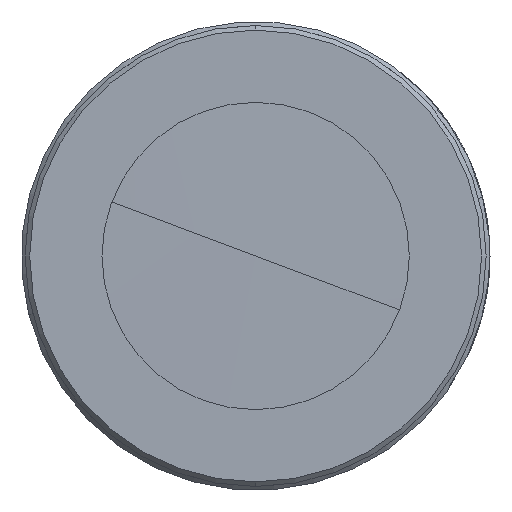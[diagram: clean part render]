
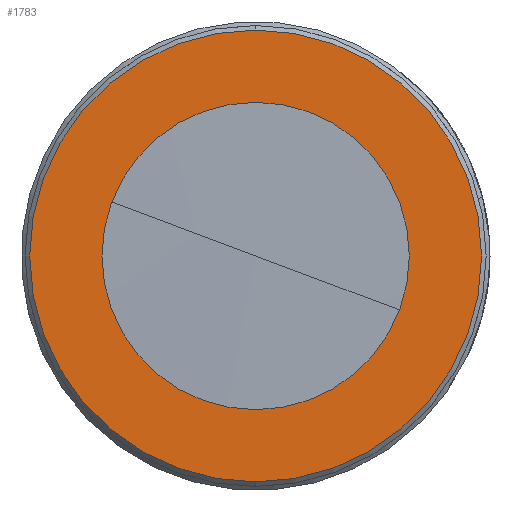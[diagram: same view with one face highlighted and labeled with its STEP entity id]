
A CAD part, front view. The second image highlights one B-rep face of the part: STEP entity #1783.
In plain terms, the highlighted planar face has unit normal (0, -1, 0).
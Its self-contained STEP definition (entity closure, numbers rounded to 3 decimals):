
#113 = PLANE ( 'NONE',  #5937 ) ;
#479 = CARTESIAN_POINT ( 'NONE',  ( 0., -125., 0. ) ) ;
#1171 = EDGE_LOOP ( 'NONE', ( #13733, #3332 ) ) ;
#1186 = VERTEX_POINT ( 'NONE', #1782 ) ;
#1782 = CARTESIAN_POINT ( 'NONE',  ( 0., -125., 10. ) ) ;
#1783 = ADVANCED_FACE ( 'NONE', ( #7084, #11743 ), #113, .F. ) ;
#1785 = DIRECTION ( 'NONE',  ( 0., 1., 0. ) ) ;
#1872 = ORIENTED_EDGE ( 'NONE', *, *, #13337, .T. ) ;
#2770 = VERTEX_POINT ( 'NONE', #9441 ) ;
#3246 = DIRECTION ( 'NONE',  ( 0., -1., 0. ) ) ;
#3332 = ORIENTED_EDGE ( 'NONE', *, *, #11047, .T. ) ;
#3436 = VERTEX_POINT ( 'NONE', #10596 ) ;
#3452 = EDGE_LOOP ( 'NONE', ( #6277, #1872 ) ) ;
#4263 = DIRECTION ( 'NONE',  ( 0., 0., 1. ) ) ;
#5937 = AXIS2_PLACEMENT_3D ( 'NONE', #479, #1785, #10893 ) ;
#6116 = AXIS2_PLACEMENT_3D ( 'NONE', #6569, #9085, #4263 ) ;
#6241 = VERTEX_POINT ( 'NONE', #7856 ) ;
#6277 = ORIENTED_EDGE ( 'NONE', *, *, #12556, .T. ) ;
#6569 = CARTESIAN_POINT ( 'NONE',  ( 0., -125., 0. ) ) ;
#6881 = CIRCLE ( 'NONE', #8565, 14.7 ) ;
#7084 = FACE_OUTER_BOUND ( 'NONE', #1171, .T. ) ;
#7856 = CARTESIAN_POINT ( 'NONE',  ( 0., -125., -10. ) ) ;
#8158 = DIRECTION ( 'NONE',  ( 0., 0., 1. ) ) ;
#8299 = CARTESIAN_POINT ( 'NONE',  ( 0., -125., 0. ) ) ;
#8355 = EDGE_CURVE ( 'NONE', #2770, #3436, #10965, .T. ) ;
#8425 = DIRECTION ( 'NONE',  ( 0., 0., 1. ) ) ;
#8565 = AXIS2_PLACEMENT_3D ( 'NONE', #9874, #8577, #8425 ) ;
#8577 = DIRECTION ( 'NONE',  ( 0., -1., 0. ) ) ;
#8784 = CIRCLE ( 'NONE', #10993, 10. ) ;
#9085 = DIRECTION ( 'NONE',  ( 0., 1., 0. ) ) ;
#9357 = CARTESIAN_POINT ( 'NONE',  ( 0., -125., 0. ) ) ;
#9441 = CARTESIAN_POINT ( 'NONE',  ( 0., -125., 14.7 ) ) ;
#9874 = CARTESIAN_POINT ( 'NONE',  ( 0., -125., 0. ) ) ;
#10280 = CIRCLE ( 'NONE', #6116, 10. ) ;
#10596 = CARTESIAN_POINT ( 'NONE',  ( 0., -125., -14.7 ) ) ;
#10893 = DIRECTION ( 'NONE',  ( 0., 0., 1. ) ) ;
#10965 = CIRCLE ( 'NONE', #13932, 14.7 ) ;
#10993 = AXIS2_PLACEMENT_3D ( 'NONE', #8299, #12754, #8158 ) ;
#11047 = EDGE_CURVE ( 'NONE', #3436, #2770, #6881, .T. ) ;
#11743 = FACE_BOUND ( 'NONE', #3452, .T. ) ;
#12556 = EDGE_CURVE ( 'NONE', #6241, #1186, #8784, .T. ) ;
#12754 = DIRECTION ( 'NONE',  ( 0., 1., 0. ) ) ;
#13337 = EDGE_CURVE ( 'NONE', #1186, #6241, #10280, .T. ) ;
#13733 = ORIENTED_EDGE ( 'NONE', *, *, #8355, .T. ) ;
#13932 = AXIS2_PLACEMENT_3D ( 'NONE', #9357, #3246, #15121 ) ;
#15121 = DIRECTION ( 'NONE',  ( 0., 0., 1. ) ) ;
